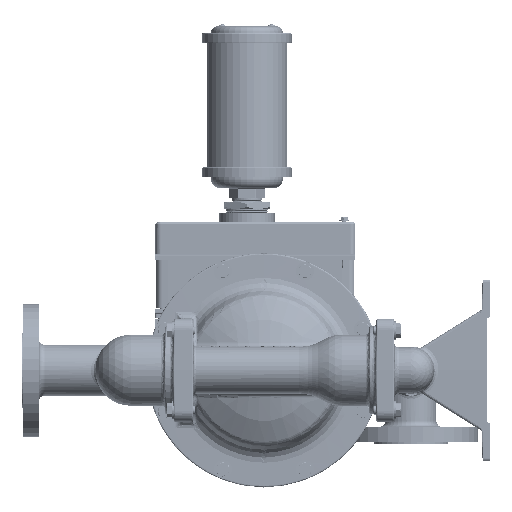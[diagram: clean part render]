
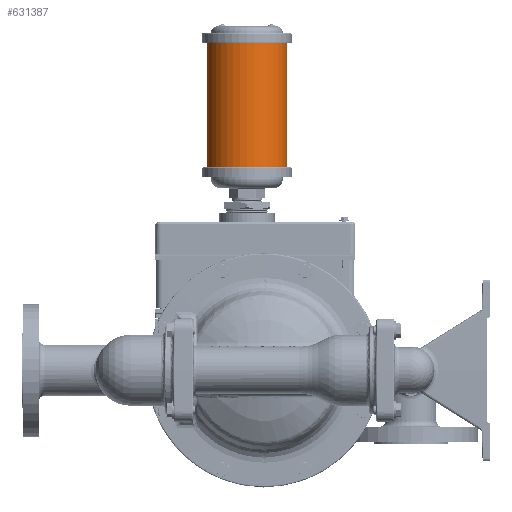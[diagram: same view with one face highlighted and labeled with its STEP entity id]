
A CAD part, left-side view. The second image highlights one B-rep face of the part: STEP entity #631387.
In plain terms, the highlighted cylindrical face has radius 45.339 mm (diameter 90.678 mm), a partial arc.
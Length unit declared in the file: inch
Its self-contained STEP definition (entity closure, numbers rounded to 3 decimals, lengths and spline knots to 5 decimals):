
#109545=DIRECTION('',(0.,0.,1.));
#109546=VECTOR('',#109545,5.5);
#109547=CARTESIAN_POINT('',(0.,2.535,8.983));
#109548=LINE('',#109547,#109546);
#109549=DIRECTION('',(0.,0.,1.));
#109550=VECTOR('',#109549,5.5);
#109551=CARTESIAN_POINT('',(0.,-1.035,8.983));
#109552=LINE('',#109551,#109550);
#109553=CARTESIAN_POINT('',(0.,0.75,8.983));
#109554=DIRECTION('',(0.,0.,1.));
#109555=DIRECTION('',(0.,1.,0.));
#109556=AXIS2_PLACEMENT_3D('',#109553,#109554,#109555);
#109578=CARTESIAN_POINT('',(0.,0.75,14.483));
#109579=DIRECTION('',(0.,0.,1.));
#109580=DIRECTION('',(0.,1.,0.));
#109581=AXIS2_PLACEMENT_3D('',#109578,#109579,#109580);
#551020=CARTESIAN_POINT('',(0.,2.535,8.983));
#551021=CARTESIAN_POINT('',(0.,2.535,14.483));
#551022=VERTEX_POINT('',#551020);
#551023=VERTEX_POINT('',#551021);
#551024=CARTESIAN_POINT('',(0.,-1.035,8.983));
#551025=CARTESIAN_POINT('',(0.,-1.035,14.483));
#551026=VERTEX_POINT('',#551024);
#551027=VERTEX_POINT('',#551025);
#631373=CARTESIAN_POINT('',(0.,0.75,15.592));
#631374=DIRECTION('',(0.,0.,-1.));
#631375=DIRECTION('',(0.,-1.,0.));
#631376=AXIS2_PLACEMENT_3D('',#631373,#631374,#631375);
#631377=CYLINDRICAL_SURFACE('',#631376,1.785);
#631379=ORIENTED_EDGE('',*,*,#631378,.T.);
#631381=ORIENTED_EDGE('',*,*,#631380,.T.);
#631383=ORIENTED_EDGE('',*,*,#631382,.F.);
#631384=ORIENTED_EDGE('',*,*,#631354,.F.);
#631385=EDGE_LOOP('',(#631379,#631381,#631383,#631384));
#631386=FACE_OUTER_BOUND('',#631385,.F.);
#109557=CIRCLE('',#109556,1.785);
#109582=CIRCLE('',#109581,1.785);
#631354=EDGE_CURVE('',#551022,#551026,#109557,.T.);
#631378=EDGE_CURVE('',#551022,#551023,#109548,.T.);
#631380=EDGE_CURVE('',#551023,#551027,#109582,.T.);
#631382=EDGE_CURVE('',#551026,#551027,#109552,.T.);
#631387=ADVANCED_FACE('',(#631386),#631377,.T.);
